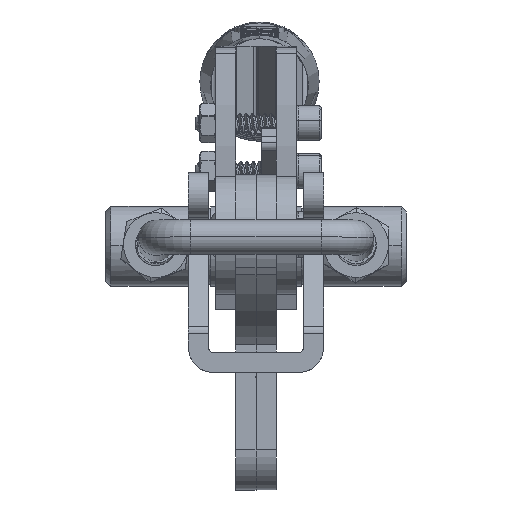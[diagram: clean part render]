
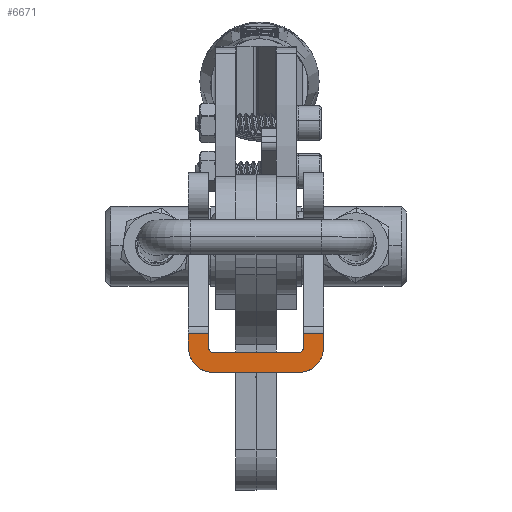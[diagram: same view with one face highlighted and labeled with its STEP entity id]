
A CAD part, left-side view. The second image highlights one B-rep face of the part: STEP entity #6671.
In plain terms, the highlighted planar face has unit normal (-1, 0, 0).
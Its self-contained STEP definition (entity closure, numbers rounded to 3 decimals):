
#162 = EDGE_CURVE ( 'NONE', #23610, #34099, #31012, .T. ) ;
#1729 = EDGE_CURVE ( 'NONE', #6118, #18393, #18531, .T. ) ;
#2370 = LINE ( 'NONE', #31295, #24457 ) ;
#2920 = ORIENTED_EDGE ( 'NONE', *, *, #46814, .F. ) ;
#3326 = ORIENTED_EDGE ( 'NONE', *, *, #45491, .T. ) ;
#3517 = VECTOR ( 'NONE', #27624, 1000. ) ;
#3527 = LINE ( 'NONE', #32674, #6545 ) ;
#4200 = CARTESIAN_POINT ( 'NONE',  ( -109.582, 9.5, 50.235 ) ) ;
#4269 = CARTESIAN_POINT ( 'NONE',  ( -109.582, 8.5, 42.475 ) ) ;
#4409 = VERTEX_POINT ( 'NONE', #4200 ) ;
#5350 = VECTOR ( 'NONE', #26328, 1000. ) ;
#5355 = LINE ( 'NONE', #33561, #40684 ) ;
#5806 = DIRECTION ( 'NONE',  ( -1., 0., 0. ) ) ;
#6118 = VERTEX_POINT ( 'NONE', #18053 ) ;
#6251 = DIRECTION ( 'NONE',  ( -1., 0., 0. ) ) ;
#6478 = LINE ( 'NONE', #29455, #31186 ) ;
#6545 = VECTOR ( 'NONE', #29110, 1000. ) ;
#6671 = ADVANCED_FACE ( 'NONE', ( #23062 ), #37604, .T. ) ;
#7333 = CARTESIAN_POINT ( 'NONE',  ( -109.582, 13.5, 47.475 ) ) ;
#7374 = DIRECTION ( 'NONE',  ( 0., 0., 1. ) ) ;
#7404 = EDGE_CURVE ( 'NONE', #42477, #17966, #33457, .T. ) ;
#8108 = AXIS2_PLACEMENT_3D ( 'NONE', #35661, #38525, #20870 ) ;
#9033 = EDGE_CURVE ( 'NONE', #4409, #41206, #2370, .T. ) ;
#9040 = ORIENTED_EDGE ( 'NONE', *, *, #10370, .T. ) ;
#9436 = EDGE_CURVE ( 'NONE', #36751, #18393, #33462, .T. ) ;
#9687 = DIRECTION ( 'NONE',  ( 0., 0., 1. ) ) ;
#9854 = VECTOR ( 'NONE', #45519, 1000. ) ;
#10061 = ORIENTED_EDGE ( 'NONE', *, *, #9033, .F. ) ;
#10370 = EDGE_CURVE ( 'NONE', #17125, #41206, #42429, .T. ) ;
#11877 = CARTESIAN_POINT ( 'NONE',  ( -109.582, 8.5, 46.475 ) ) ;
#12282 = CARTESIAN_POINT ( 'NONE',  ( -109.582, -9.5, 50.235 ) ) ;
#13239 = CARTESIAN_POINT ( 'NONE',  ( -109.582, -13.5, 42.475 ) ) ;
#13471 = AXIS2_PLACEMENT_3D ( 'NONE', #31927, #46463, #9687 ) ;
#14680 = ORIENTED_EDGE ( 'NONE', *, *, #162, .F. ) ;
#16045 = CARTESIAN_POINT ( 'NONE',  ( -109.582, 13.5, 50.235 ) ) ;
#16337 = DIRECTION ( 'NONE',  ( 0., 0., 1. ) ) ;
#16447 = CIRCLE ( 'NONE', #31706, 5. ) ;
#16545 = CARTESIAN_POINT ( 'NONE',  ( -109.582, -8.5, 47.475 ) ) ;
#17125 = VERTEX_POINT ( 'NONE', #11877 ) ;
#17253 = VERTEX_POINT ( 'NONE', #40434 ) ;
#17966 = VERTEX_POINT ( 'NONE', #7333 ) ;
#18053 = CARTESIAN_POINT ( 'NONE',  ( -109.582, -9.5, 47.475 ) ) ;
#18393 = VERTEX_POINT ( 'NONE', #12282 ) ;
#18531 = LINE ( 'NONE', #24986, #33342 ) ;
#18877 = CARTESIAN_POINT ( 'NONE',  ( -109.582, 9.5, 47.475 ) ) ;
#20554 = AXIS2_PLACEMENT_3D ( 'NONE', #45681, #5806, #16337 ) ;
#20870 = DIRECTION ( 'NONE',  ( 0., 0., 1. ) ) ;
#22075 = CIRCLE ( 'NONE', #35737, 1. ) ;
#22463 = DIRECTION ( 'NONE',  ( 1., 0., 0. ) ) ;
#22698 = CARTESIAN_POINT ( 'NONE',  ( -109.582, 8.5, 47.475 ) ) ;
#23062 = FACE_OUTER_BOUND ( 'NONE', #27892, .T. ) ;
#23610 = VERTEX_POINT ( 'NONE', #30829 ) ;
#24457 = VECTOR ( 'NONE', #45821, 1000. ) ;
#24911 = ORIENTED_EDGE ( 'NONE', *, *, #35469, .F. ) ;
#24986 = CARTESIAN_POINT ( 'NONE',  ( -109.582, -9.5, 57.966 ) ) ;
#25229 = DIRECTION ( 'NONE',  ( 0., 0., 1. ) ) ;
#26144 = CARTESIAN_POINT ( 'NONE',  ( -109.582, -13.5, 50.235 ) ) ;
#26328 = DIRECTION ( 'NONE',  ( 0., 1., 0. ) ) ;
#26990 = VERTEX_POINT ( 'NONE', #4269 ) ;
#27624 = DIRECTION ( 'NONE',  ( 0., 0., 1. ) ) ;
#27892 = EDGE_LOOP ( 'NONE', ( #31217, #29271, #24911, #9040, #10061, #46944, #33234, #35067, #2920, #14680, #3326, #45532 ) ) ;
#29110 = DIRECTION ( 'NONE',  ( 0., 1., 0. ) ) ;
#29271 = ORIENTED_EDGE ( 'NONE', *, *, #46549, .F. ) ;
#29455 = CARTESIAN_POINT ( 'NONE',  ( -109.582, 13.5, 42.475 ) ) ;
#29903 = CARTESIAN_POINT ( 'NONE',  ( -109.582, -9.5, 50.235 ) ) ;
#30829 = CARTESIAN_POINT ( 'NONE',  ( -109.582, -13.5, 47.475 ) ) ;
#31012 = CIRCLE ( 'NONE', #8108, 5. ) ;
#31186 = VECTOR ( 'NONE', #39449, 1000. ) ;
#31217 = ORIENTED_EDGE ( 'NONE', *, *, #1729, .F. ) ;
#31295 = CARTESIAN_POINT ( 'NONE',  ( -109.582, 9.5, 57.966 ) ) ;
#31706 = AXIS2_PLACEMENT_3D ( 'NONE', #22698, #22463, #7374 ) ;
#31824 = DIRECTION ( 'NONE',  ( 0., 0., 1. ) ) ;
#31927 = CARTESIAN_POINT ( 'NONE',  ( -109.582, 8.5, 47.475 ) ) ;
#32674 = CARTESIAN_POINT ( 'NONE',  ( -109.582, 9.5, 50.235 ) ) ;
#33234 = ORIENTED_EDGE ( 'NONE', *, *, #7404, .T. ) ;
#33342 = VECTOR ( 'NONE', #25229, 1000. ) ;
#33457 = LINE ( 'NONE', #41696, #9854 ) ;
#33462 = LINE ( 'NONE', #29903, #5350 ) ;
#33561 = CARTESIAN_POINT ( 'NONE',  ( -109.582, 13.5, 46.475 ) ) ;
#34099 = VERTEX_POINT ( 'NONE', #41550 ) ;
#34478 = DIRECTION ( 'NONE',  ( 0., -1., 0. ) ) ;
#35067 = ORIENTED_EDGE ( 'NONE', *, *, #41128, .F. ) ;
#35469 = EDGE_CURVE ( 'NONE', #17125, #17253, #5355, .T. ) ;
#35661 = CARTESIAN_POINT ( 'NONE',  ( -109.582, -8.5, 47.475 ) ) ;
#35737 = AXIS2_PLACEMENT_3D ( 'NONE', #16545, #6251, #31824 ) ;
#36751 = VERTEX_POINT ( 'NONE', #26144 ) ;
#37604 = PLANE ( 'NONE',  #20554 ) ;
#38338 = LINE ( 'NONE', #13239, #3517 ) ;
#38525 = DIRECTION ( 'NONE',  ( 1., 0., 0. ) ) ;
#39449 = DIRECTION ( 'NONE',  ( 0., 1., 0. ) ) ;
#40434 = CARTESIAN_POINT ( 'NONE',  ( -109.582, -8.5, 46.475 ) ) ;
#40684 = VECTOR ( 'NONE', #34478, 1000. ) ;
#41128 = EDGE_CURVE ( 'NONE', #26990, #17966, #16447, .T. ) ;
#41206 = VERTEX_POINT ( 'NONE', #18877 ) ;
#41550 = CARTESIAN_POINT ( 'NONE',  ( -109.582, -8.5, 42.475 ) ) ;
#41696 = CARTESIAN_POINT ( 'NONE',  ( -109.582, 13.5, 42.475 ) ) ;
#42429 = CIRCLE ( 'NONE', #13471, 1. ) ;
#42477 = VERTEX_POINT ( 'NONE', #16045 ) ;
#45491 = EDGE_CURVE ( 'NONE', #23610, #36751, #38338, .T. ) ;
#45519 = DIRECTION ( 'NONE',  ( 0., 0., -1. ) ) ;
#45532 = ORIENTED_EDGE ( 'NONE', *, *, #9436, .T. ) ;
#45681 = CARTESIAN_POINT ( 'NONE',  ( -109.582, -9.5, 42.475 ) ) ;
#45821 = DIRECTION ( 'NONE',  ( 0., 0., -1. ) ) ;
#45945 = EDGE_CURVE ( 'NONE', #4409, #42477, #3527, .T. ) ;
#46463 = DIRECTION ( 'NONE',  ( 1., 0., 0. ) ) ;
#46549 = EDGE_CURVE ( 'NONE', #17253, #6118, #22075, .T. ) ;
#46814 = EDGE_CURVE ( 'NONE', #34099, #26990, #6478, .T. ) ;
#46944 = ORIENTED_EDGE ( 'NONE', *, *, #45945, .T. ) ;
